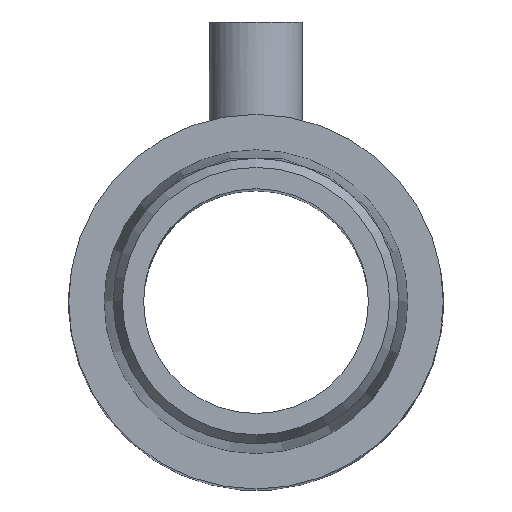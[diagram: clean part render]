
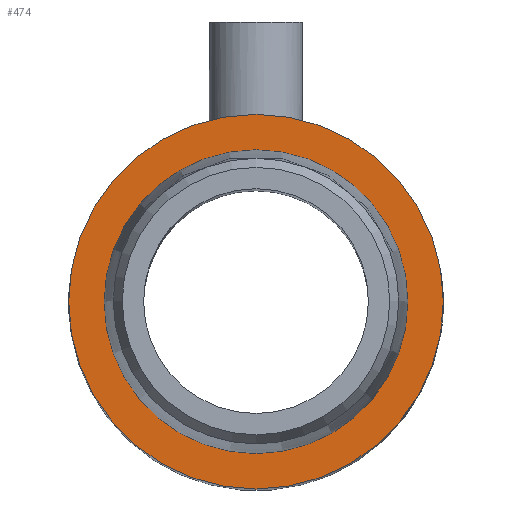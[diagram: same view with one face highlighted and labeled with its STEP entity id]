
A CAD part, top view. The second image highlights one B-rep face of the part: STEP entity #474.
In plain terms, the highlighted planar face has unit normal (0, 0, 1).
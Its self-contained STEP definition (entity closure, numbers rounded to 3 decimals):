
#16 = ORIENTED_EDGE ( 'NONE', *, *, #324, .T. ) ;
#33 = DIRECTION ( 'NONE',  ( 1., 0., 0. ) ) ;
#61 = AXIS2_PLACEMENT_3D ( 'NONE', #430, #374, #462 ) ;
#80 = EDGE_CURVE ( 'NONE', #216, #216, #172, .T. ) ;
#97 = CARTESIAN_POINT ( 'NONE',  ( 6., 0., 30. ) ) ;
#126 = DIRECTION ( 'NONE',  ( 0., 0., -1. ) ) ;
#135 = EDGE_LOOP ( 'NONE', ( #557 ) ) ;
#148 = VERTEX_POINT ( 'NONE', #97 ) ;
#160 = DIRECTION ( 'NONE',  ( 0., 0., 1. ) ) ;
#172 = CIRCLE ( 'NONE', #61, 4.864 ) ;
#180 = CARTESIAN_POINT ( 'NONE',  ( 4.864, 0., 30. ) ) ;
#185 = EDGE_LOOP ( 'NONE', ( #16 ) ) ;
#203 = FACE_OUTER_BOUND ( 'NONE', #185, .T. ) ;
#216 = VERTEX_POINT ( 'NONE', #180 ) ;
#246 = CARTESIAN_POINT ( 'NONE',  ( 0., 0., 30. ) ) ;
#324 = EDGE_CURVE ( 'NONE', #148, #148, #359, .T. ) ;
#341 = FACE_BOUND ( 'NONE', #135, .T. ) ;
#359 = CIRCLE ( 'NONE', #504, 6. ) ;
#374 = DIRECTION ( 'NONE',  ( 0., 0., 1. ) ) ;
#420 = DIRECTION ( 'NONE',  ( -1., 0., 0. ) ) ;
#430 = CARTESIAN_POINT ( 'NONE',  ( 0., 0., 30. ) ) ;
#443 = AXIS2_PLACEMENT_3D ( 'NONE', #512, #126, #420 ) ;
#462 = DIRECTION ( 'NONE',  ( 1., 0., 0. ) ) ;
#474 = ADVANCED_FACE ( 'NONE', ( #341, #203 ), #559, .F. ) ;
#504 = AXIS2_PLACEMENT_3D ( 'NONE', #246, #160, #33 ) ;
#512 = CARTESIAN_POINT ( 'NONE',  ( 0., 6., 30. ) ) ;
#557 = ORIENTED_EDGE ( 'NONE', *, *, #80, .F. ) ;
#559 = PLANE ( 'NONE',  #443 ) ;
